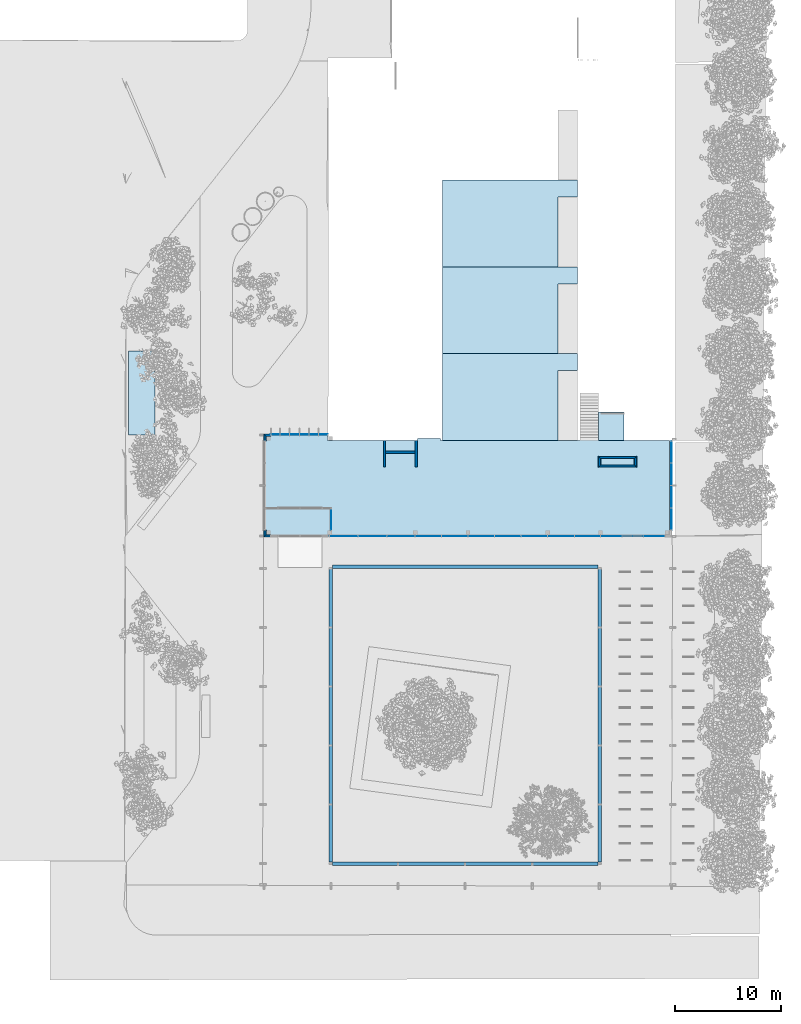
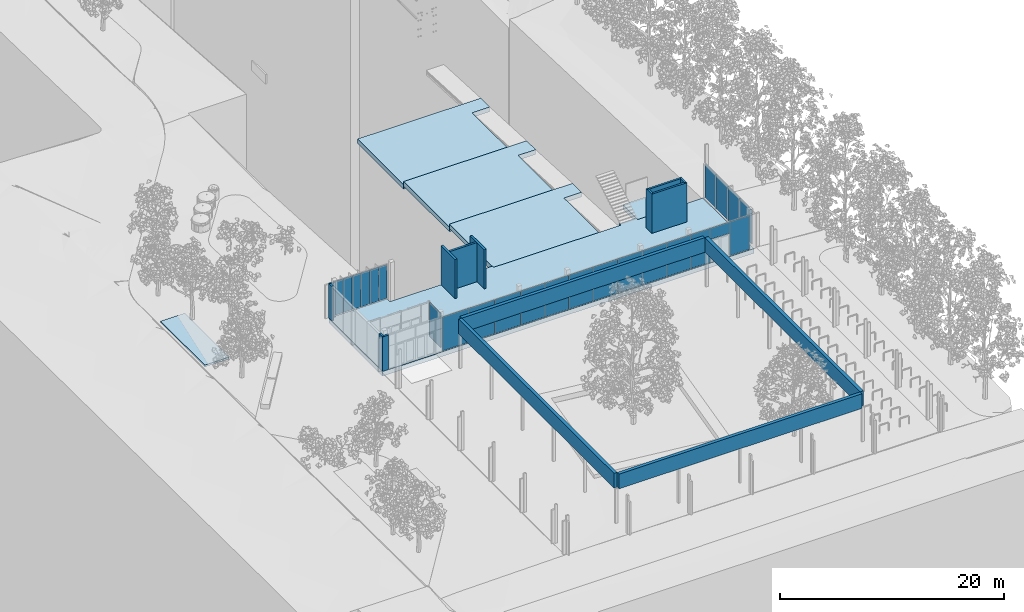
# One storey, part 9 of 69: 24 plates, 15 walls, 6 slabs, 6 elements without a shape of their own.
"""IFC2X3 building model written with IfcOpenShell, lengths in millimetres."""

from ifc_helpers import new_model, entity, si_unit, converted_unit, derived_unit, money_unit, direction, frame, origin_with_axes, place, context, subcontext, project, spatial, polyline, outline, extrude, material, layer, layer_set, layer_usage, type_object, element, aggregate, save


model = new_model("IFC2X3")

# Units and contexts
model_context = context("Model", 3, precision=0.01, world=origin_with_axes(), true_north=direction((0.0, 1.0)))
body_context = subcontext(model_context, "Body", "Model", "MODEL_VIEW")
ifc_project = project(units=[si_unit("LENGTHUNIT", "METRE", prefix="MILLI"), si_unit("AREAUNIT", "SQUARE_METRE"), si_unit("VOLUMEUNIT", "CUBIC_METRE"), converted_unit("PLANEANGLEUNIT", "DEGREE", entity("IfcPlaneAngleMeasure", 0.0174532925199), si_unit("PLANEANGLEUNIT", "RADIAN"), dimensions=[0, 0, 0, 0, 0, 0, 0]), si_unit("SOLIDANGLEUNIT", "STERADIAN"), money_unit("EUR"), converted_unit("TIMEUNIT", "Year", entity("IfcTimeMeasure", 31556926.0), si_unit("TIMEUNIT", "SECOND"), dimensions=[0, 0, 1, 0, 0, 0, 0]), si_unit("MASSUNIT", "GRAM", prefix="KILO"), si_unit("THERMODYNAMICTEMPERATUREUNIT", "DEGREE_CELSIUS"), si_unit("LUMINOUSINTENSITYUNIT", "LUMEN"), si_unit("ENERGYUNIT", "JOULE", prefix="MEGA"), derived_unit("THERMALCONDUCTANCEUNIT", [(si_unit("POWERUNIT", "WATT"), 1), (si_unit("LENGTHUNIT", "METRE"), -1), (si_unit("THERMODYNAMICTEMPERATUREUNIT", "KELVIN"), -1)]), derived_unit("SPECIFICHEATCAPACITYUNIT", [(si_unit("ENERGYUNIT", "JOULE"), 1), (si_unit("MASSUNIT", "GRAM", prefix="KILO"), -1), (si_unit("THERMODYNAMICTEMPERATUREUNIT", "KELVIN"), -1)]), derived_unit("MASSDENSITYUNIT", [(si_unit("MASSUNIT", "GRAM", prefix="KILO"), 1), (si_unit("VOLUMEUNIT", "CUBIC_METRE"), -1)])], contexts=[model_context])

# Site, building, storey
site_placement = place(None, origin_with_axes())
site = spatial("IfcSite", under=ifc_project, at=site_placement, Name="Puškini 31, Narva", CompositionType="ELEMENT")
building_placement = place(site_placement, origin_with_axes())
building = spatial("IfcBuilding", under=site, at=building_placement, Name="Narva Riigigümnaasium", CompositionType="ELEMENT")
storey_placement = place(building_placement, origin_with_axes())
storey = spatial("IfcBuildingStorey", under=building, at=storey_placement, Name="1.korrus 0.00", CompositionType="ELEMENT", Elevation=0.0)

# Curtain wall, plate
curtain_wall_type = type_object("IfcCurtainWallType", Name="Curtain Wall Type", PredefinedType="NOTDEFINED")
curtain_wall_1_placement = place(storey_placement, frame((22285.3673645, 151537.502931, -7.26812883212e-05), z_axis=(0.0, 0.0, 1.0), x_axis=(1.0, 0.0, 0.0)))
curtain_wall_1 = element("IfcCurtainWall", 1, at=curtain_wall_1_placement, inside=storey, type_object=curtain_wall_type, Name="G-KLF-01-2")
ifc_material_1 = material(Name="VKR-05_Klaas")
plate_type_1 = type_object("IfcPlateType", Name="Siseklaasfassaad - Klaas 2014 x 3699 x 10", PredefinedType="CURTAIN_PANEL")
plate_1_placement = place(curtain_wall_1_placement, frame((0.0, 0.0, 1880.00004967), z_axis=(0.0, 0.0, 1.0), x_axis=(0.0, -1.0, 0.0)))
plate_1 = element("IfcPlate", 2, at=plate_1_placement, type_object=plate_type_1, material=ifc_material_1, Name="G-SKLF-02-klaas", ObjectType="CURTAIN_PANEL", context=body_context, shape_type="SweptSolid", body=[
    extrude(outline(polyline([(-1006.92057875, -1849.41770334), (1006.92059259, -1849.41770334), (1006.92059259, 1849.41770334), (-1006.92057875, 1849.41770334), (-1006.92057875, -1849.41770334)])), frame((0.0, -1.0, 0.0), z_axis=(0.0, 1.0, 0.0), x_axis=(1.0, 0.0, 0.0)), (0.0, 0.0, 1.0), 12.0),
])
aggregate(curtain_wall_1, [plate_1])

# Curtain wall, plates
curtain_wall_2_placement = place(storey_placement, frame((54395.000001, 153692.500006, -0.000186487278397), z_axis=(0.0, 0.0, 1.0), x_axis=(1.0, 0.0, 0.0)))
curtain_wall_2 = element("IfcCurtainWall", 3, at=curtain_wall_2_placement, inside=storey, type_object=curtain_wall_type, Name="G-KLF-02-1")
ifc_material_2 = material(Name="Klaas")
plate_type_2 = type_object("IfcPlateType", Name="Main Panel 2070 x 3690 x 62", PredefinedType="CURTAIN_PANEL")
plate_2_placement = place(curtain_wall_2_placement, frame((0.0, -2114.99999757, 1880.00010289), z_axis=(0.0, 0.0, 1.0), x_axis=(0.0, 1.0, 0.0)))
plate_2 = element("IfcPlate", 4, at=plate_2_placement, type_object=plate_type_2, material=ifc_material_2, Name="klaasfassaadi klaas", ObjectType="CURTAIN_PANEL", context=body_context, shape_type="SweptSolid", body=[
    extrude(outline(polyline([(-1022.5000018, -1845.00009978), (1047.49998989, -1845.00009978), (1047.49998989, 1845.00009978), (-1022.5000018, 1845.00009978), (-1022.5000018, -1845.00009978)])), frame((0.0, -31.0, 0.0), z_axis=(0.0, 1.0, 0.0), x_axis=(1.0, 0.0, 0.0)), (0.0, 0.0, 1.0), 62.0),
])
plate_3_placement = place(curtain_wall_2_placement, frame((0.0, 4229.99999514, 1880.00010289), z_axis=(0.0, 0.0, 1.0), x_axis=(0.0, 1.0, 0.0)))
plate_3 = element("IfcPlate", 5, at=plate_3_placement, type_object=plate_type_2, material=ifc_material_2, Name="klaasfassaadi klaas", ObjectType="CURTAIN_PANEL", context=body_context, shape_type="SweptSolid", body=[
    extrude(outline(polyline([(-1047.49999602, -1845.00009978), (1022.49999568, -1845.00009978), (1022.49999568, 1845.00009978), (-1047.49999602, 1845.00009978), (-1047.49999602, -1845.00009978)])), frame((0.0, -31.0, 0.0), z_axis=(0.0, 1.0, 0.0), x_axis=(1.0, 0.0, 0.0)), (0.0, 0.0, 1.0), 62.0),
])

curtain_wall_3_placement = place(storey_placement, frame((17902.9999992, 159574.999987, -0.000108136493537), z_axis=(0.0, 0.0, 1.0), x_axis=(1.0, 0.0, 0.0)))
curtain_wall_3 = element("IfcCurtainWall", 6, at=curtain_wall_3_placement, inside=storey, type_object=curtain_wall_type, Name="G-KLF-03")
plate_type_3 = type_object("IfcPlateType", Name="Main Panel 886 x 3690 x 62", PredefinedType="CURTAIN_PANEL")
plate_4_placement = place(curtain_wall_3_placement, frame((0.0, 0.0, 1880.00003723), z_axis=(0.0, 0.0, 1.0), x_axis=(-1.0, 0.0, 0.0)))
plate_4 = element("IfcPlate", 7, at=plate_4_placement, type_object=plate_type_3, material=ifc_material_2, Name="klaasfassaadi klaas", ObjectType="CURTAIN_PANEL", context=body_context, shape_type="SweptSolid", body=[
    extrude(outline(polyline([(-443.000003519, -1845.00003535), (442.999991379, -1845.00003535), (442.999991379, 1845.00003535), (-443.000003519, 1845.00003535), (-443.000003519, -1845.00003535)])), frame((0.0, -31.0, 0.0), z_axis=(0.0, 1.0, 0.0), x_axis=(1.0, 0.0, 0.0)), (0.0, 0.0, 1.0), 62.0),
])
plate_5_placement = place(curtain_wall_3_placement, frame((905.999999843, 0.0, 1880.00004405), z_axis=(0.0, 0.0, 1.0), x_axis=(-1.0, 0.0, 0.0)))
plate_5 = element("IfcPlate", 8, at=plate_5_placement, type_object=plate_type_3, material=ifc_material_2, Name="klaasfassaadi klaas", ObjectType="CURTAIN_PANEL", context=body_context, shape_type="SweptSolid", body=[
    extrude(outline(polyline([(-443.000003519, -1845.00002853), (442.999991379, -1845.00002853), (442.999991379, 1845.00004217), (-443.000003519, 1845.00004217), (-443.000003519, -1845.00002853)])), frame((0.0, -31.0, 0.0), z_axis=(0.0, 1.0, 0.0), x_axis=(1.0, 0.0, 0.0)), (0.0, 0.0, 1.0), 62.0),
])
plate_6_placement = place(curtain_wall_3_placement, frame((1811.99999969, 0.0, 1880.00005087), z_axis=(0.0, 0.0, 1.0), x_axis=(-1.0, 0.0, 0.0)))
plate_6 = element("IfcPlate", 9, at=plate_6_placement, type_object=plate_type_3, material=ifc_material_2, Name="klaasfassaadi klaas", ObjectType="CURTAIN_PANEL", context=body_context, shape_type="SweptSolid", body=[
    extrude(outline(polyline([(-443.000003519, -1845.00002171), (442.999991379, -1845.00002171), (442.999991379, 1845.00004899), (-443.000003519, 1845.00004899), (-443.000003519, -1845.00002171)])), frame((0.0, -31.0, 0.0), z_axis=(0.0, 1.0, 0.0), x_axis=(1.0, 0.0, 0.0)), (0.0, 0.0, 1.0), 62.0),
])
plate_7_placement = place(curtain_wall_3_placement, frame((2717.99999953, 0.0, 1880.00005087), z_axis=(0.0, 0.0, 1.0), x_axis=(-1.0, 0.0, 0.0)))
plate_7 = element("IfcPlate", 10, at=plate_7_placement, type_object=plate_type_3, material=ifc_material_2, Name="klaasfassaadi klaas", ObjectType="CURTAIN_PANEL", context=body_context, shape_type="SweptSolid", body=[
    extrude(outline(polyline([(-443.000003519, -1845.00002171), (442.999991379, -1845.00002171), (442.999991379, 1845.00004899), (-443.000003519, 1845.00004899), (-443.000003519, -1845.00002171)])), frame((0.0, -31.0, 0.0), z_axis=(0.0, 1.0, 0.0), x_axis=(1.0, 0.0, 0.0)), (0.0, 0.0, 1.0), 62.0),
])
plate_type_4 = type_object("IfcPlateType", Name="Main Panel 861 x 3690 x 62", PredefinedType="CURTAIN_PANEL")
plate_8_placement = place(curtain_wall_3_placement, frame((-905.999999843, 0.0, 1880.00003723), z_axis=(0.0, 0.0, 1.0), x_axis=(-1.0, 0.0, 0.0)))
plate_8 = element("IfcPlate", 11, at=plate_8_placement, type_object=plate_type_4, material=ifc_material_2, Name="klaasfassaadi klaas", ObjectType="CURTAIN_PANEL", context=body_context, shape_type="SweptSolid", body=[
    extrude(outline(polyline([(-443.000003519, -1845.00003535), (417.999998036, -1845.00003535), (417.999998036, 1845.00003535), (-443.000003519, 1845.00003535), (-443.000003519, -1845.00003535)])), frame((0.0, -31.0, 0.0), z_axis=(0.0, 1.0, 0.0), x_axis=(1.0, 0.0, 0.0)), (0.0, 0.0, 1.0), 62.0),
])
plate_9_placement = place(curtain_wall_3_placement, frame((3623.99999937, 0.0, 1880.00005087), z_axis=(0.0, 0.0, 1.0), x_axis=(-1.0, 0.0, 0.0)))
plate_9 = element("IfcPlate", 12, at=plate_9_placement, type_object=plate_type_4, material=ifc_material_2, Name="klaasfassaadi klaas", ObjectType="CURTAIN_PANEL", context=body_context, shape_type="SweptSolid", body=[
    extrude(outline(polyline([(-418.000016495, -1845.00004873), (442.999991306, -1845.00004873), (442.999991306, 1845.00004873), (-418.000016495, 1845.00004873), (-418.000016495, -1845.00004873)])), frame((0.0, -31.0, 0.0), z_axis=(0.0, 1.0, 0.0), x_axis=(1.0, 0.0, 0.0)), (0.0, 0.0, 1.0), 62.0),
])
aggregate(curtain_wall_3, [plate_4, plate_5, plate_8, plate_6, plate_7, plate_9])

# Plate
plate_type_5 = type_object("IfcPlateType", Name="Main Panel 2095 x 3690 x 62", PredefinedType="CURTAIN_PANEL")
plate_10_placement = place(curtain_wall_2_placement, frame((0.0, 0.0, 1880.00010289), z_axis=(0.0, 0.0, 1.0), x_axis=(0.0, 1.0, 0.0)))
plate_10 = element("IfcPlate", 13, at=plate_10_placement, type_object=plate_type_5, material=ifc_material_2, Name="klaasfassaadi klaas", ObjectType="CURTAIN_PANEL", context=body_context, shape_type="SweptSolid", body=[
    extrude(outline(polyline([(-1047.49999602, -1845.00009978), (1047.49998989, -1845.00009978), (1047.49998989, 1845.00009978), (-1047.49999602, 1845.00009978), (-1047.49999602, -1845.00009978)])), frame((0.0, -31.0, 0.0), z_axis=(0.0, 1.0, 0.0), x_axis=(1.0, 0.0, 0.0)), (0.0, 0.0, 1.0), 62.0),
])

plate_11_placement = place(curtain_wall_2_placement, frame((0.0, 2114.99999757, 1880.00010289), z_axis=(0.0, 0.0, 1.0), x_axis=(0.0, 1.0, 0.0)))
plate_11 = element("IfcPlate", 14, at=plate_11_placement, type_object=plate_type_5, material=ifc_material_2, Name="klaasfassaadi klaas", ObjectType="CURTAIN_PANEL", context=body_context, shape_type="SweptSolid", body=[
    extrude(outline(polyline([(-1047.49999602, -1845.00009978), (1047.49998989, -1845.00009978), (1047.49998989, 1845.00009978), (-1047.49999602, 1845.00009978), (-1047.49999602, -1845.00009978)])), frame((0.0, -31.0, 0.0), z_axis=(0.0, 1.0, 0.0), x_axis=(1.0, 0.0, 0.0)), (0.0, 0.0, 1.0), 62.0),
])

aggregate(curtain_wall_2, [plate_10, plate_11, plate_2, plate_3])

# Curtain wall, plates
curtain_wall_4_placement = place(storey_placement, frame((46469.7142802, 149970.00001, 0.0), z_axis=(0.0, 0.0, 1.0), x_axis=(1.0, 0.0, 0.0)))
curtain_wall_4 = element("IfcCurtainWall", 15, at=curtain_wall_4_placement, inside=storey, type_object=curtain_wall_type, Name="G-KLF-01")
ifc_material_3 = material(Name="Klaaspakett")
plate_type_6 = type_object("IfcPlateType", Name="Distinct Panel 2462 x 3690 x 20", PredefinedType="CURTAIN_PANEL")
plate_12_placement = place(curtain_wall_4_placement, frame((0.0, 0.0, 1880.0), z_axis=(0.0, 0.0, 1.0), x_axis=(1.0, 0.0, 0.0)))
plate_12 = element("IfcPlate", 16, at=plate_12_placement, type_object=plate_type_6, material=ifc_material_3, Name="Klaasfassaadi klaas", ObjectType="CURTAIN_PANEL", context=body_context, shape_type="SweptSolid", body=[
    extrude(outline(polyline([(-1243.28569605, -1844.99999881), (1218.28571276, -1844.99999881), (1218.28571276, 1844.99999881), (-1243.28569605, 1844.99999881), (-1243.28569605, -1844.99999881)])), frame((0.0, -9.99999999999, 0.0), z_axis=(0.0, 1.0, 0.0), x_axis=(1.0, 0.0, 0.0)), (0.0, 0.0, 1.0), 20.0),
])
plate_13_placement = place(curtain_wall_4_placement, frame((-15039.4285675, 0.0, 1880.0), z_axis=(0.0, 0.0, 1.0), x_axis=(1.0, 0.0, 0.0)))
plate_13 = element("IfcPlate", 17, at=plate_13_placement, type_object=plate_type_6, material=ifc_material_3, Name="Klaasfassaadi klaas", ObjectType="CURTAIN_PANEL", context=body_context, shape_type="SweptSolid", body=[
    extrude(outline(polyline([(-1218.28570321, -1844.99999881), (1243.28570561, -1844.99999881), (1243.28570561, 1844.99999881), (-1218.28570321, 1844.99999881), (-1218.28570321, -1844.99999881)])), frame((0.0, -9.99999999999, 0.0), z_axis=(0.0, 1.0, 0.0), x_axis=(1.0, 0.0, 0.0)), (0.0, 0.0, 1.0), 20.0),
])
plate_type_7 = type_object("IfcPlateType", Name="Distinct Panel 2487 x 3690 x 20", PredefinedType="CURTAIN_PANEL")
plate_14_placement = place(curtain_wall_4_placement, frame((-2506.57142791, 0.0, 1880.0), z_axis=(0.0, 0.0, 1.0), x_axis=(1.0, 0.0, 0.0)))
plate_14 = element("IfcPlate", 18, at=plate_14_placement, type_object=plate_type_7, material=ifc_material_3, Name="Klaasfassaadi klaas", ObjectType="CURTAIN_PANEL", context=body_context, shape_type="SweptSolid", body=[
    extrude(outline(polyline([(-1243.28569605, -1844.99999881), (1243.28570561, -1844.99999881), (1243.28570561, 1844.99999881), (-1243.28569605, 1844.99999881), (-1243.28569605, -1844.99999881)])), frame((0.0, -9.99999999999, 0.0), z_axis=(0.0, 1.0, 0.0), x_axis=(1.0, 0.0, 0.0)), (0.0, 0.0, 1.0), 20.0),
])
plate_15_placement = place(curtain_wall_4_placement, frame((-5013.14285582, 0.0, 1880.0), z_axis=(0.0, 0.0, 1.0), x_axis=(1.0, 0.0, 0.0)))
plate_15 = element("IfcPlate", 19, at=plate_15_placement, type_object=plate_type_7, material=ifc_material_3, Name="Klaasfassaadi klaas", ObjectType="CURTAIN_PANEL", context=body_context, shape_type="SweptSolid", body=[
    extrude(outline(polyline([(-1243.28569605, -1844.99999881), (1243.28570561, -1844.99999881), (1243.28570561, 1844.99999881), (-1243.28569605, 1844.99999881), (-1243.28569605, -1844.99999881)])), frame((0.0, -9.99999999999, 0.0), z_axis=(0.0, 1.0, 0.0), x_axis=(1.0, 0.0, 0.0)), (0.0, 0.0, 1.0), 20.0),
])
plate_16_placement = place(curtain_wall_4_placement, frame((-7519.71428373, 0.0, 1880.0), z_axis=(0.0, 0.0, 1.0), x_axis=(1.0, 0.0, 0.0)))
plate_16 = element("IfcPlate", 20, at=plate_16_placement, type_object=plate_type_7, material=ifc_material_3, Name="Klaasfassaadi klaas", ObjectType="CURTAIN_PANEL", context=body_context, shape_type="SweptSolid", body=[
    extrude(outline(polyline([(-1243.28569605, -1844.99999881), (1243.28570561, -1844.99999881), (1243.28570561, 1844.99999881), (-1243.28569605, 1844.99999881), (-1243.28569605, -1844.99999881)])), frame((0.0, -9.99999999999, 0.0), z_axis=(0.0, 1.0, 0.0), x_axis=(1.0, 0.0, 0.0)), (0.0, 0.0, 1.0), 20.0),
])
plate_17_placement = place(curtain_wall_4_placement, frame((-10026.2857116, 0.0, 1880.0), z_axis=(0.0, 0.0, 1.0), x_axis=(1.0, 0.0, 0.0)))
plate_17 = element("IfcPlate", 21, at=plate_17_placement, type_object=plate_type_7, material=ifc_material_3, Name="Klaasfassaadi klaas", ObjectType="CURTAIN_PANEL", context=body_context, shape_type="SweptSolid", body=[
    extrude(outline(polyline([(-1243.28569605, -1844.99999881), (1243.28570561, -1844.99999881), (1243.28570561, 1844.99999881), (-1243.28569605, 1844.99999881), (-1243.28569605, -1844.99999881)])), frame((0.0, -9.99999999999, 0.0), z_axis=(0.0, 1.0, 0.0), x_axis=(1.0, 0.0, 0.0)), (0.0, 0.0, 1.0), 20.0),
])
plate_18_placement = place(curtain_wall_4_placement, frame((-12532.8571396, 0.0, 1880.0), z_axis=(0.0, 0.0, 1.0), x_axis=(1.0, 0.0, 0.0)))
plate_18 = element("IfcPlate", 22, at=plate_18_placement, type_object=plate_type_7, material=ifc_material_3, Name="Klaasfassaadi klaas", ObjectType="CURTAIN_PANEL", context=body_context, shape_type="SweptSolid", body=[
    extrude(outline(polyline([(-1243.28569605, -1844.99999881), (1243.28570561, -1844.99999881), (1243.28570561, 1844.99999881), (-1243.28569605, 1844.99999881), (-1243.28569605, -1844.99999881)])), frame((0.0, -9.99999999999, 0.0), z_axis=(0.0, 1.0, 0.0), x_axis=(1.0, 0.0, 0.0)), (0.0, 0.0, 1.0), 20.0),
])
aggregate(curtain_wall_4, [plate_12, plate_14, plate_15, plate_16, plate_17, plate_18, plate_13])

curtain_wall_5_placement = place(storey_placement, frame((28873.394571, 149970.00001, 0.0), z_axis=(0.0, 0.0, 1.0), x_axis=(1.0, 0.0, 0.0)))
curtain_wall_5 = element("IfcCurtainWall", 23, at=curtain_wall_5_placement, inside=storey, type_object=curtain_wall_type, Name="G-KLF-01b")
plate_type_8 = type_object("IfcPlateType", Name="Distinct Panel 2662 x 3690 x 20", PredefinedType="CURTAIN_PANEL")
plate_19_placement = place(curtain_wall_5_placement, frame((0.0, 0.0, 1880.0), z_axis=(0.0, 0.0, 1.0), x_axis=(1.0, 0.0, 0.0)))
plate_19 = element("IfcPlate", 24, at=plate_19_placement, type_object=plate_type_8, material=ifc_material_3, Name="Klaasfassaadi klaas", ObjectType="CURTAIN_PANEL", context=body_context, shape_type="SweptSolid", body=[
    extrude(outline(polyline([(-1343.6054334, -1844.99999881), (1318.60542657, -1844.99999881), (1318.60542657, 1844.99999881), (-1343.6054334, 1844.99999881), (-1343.6054334, -1844.99999881)])), frame((0.0, -9.99999999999, 0.0), z_axis=(0.0, 1.0, 0.0), x_axis=(1.0, 0.0, 0.0)), (0.0, 0.0, 1.0), 20.0),
])
plate_20_placement = place(curtain_wall_5_placement, frame((-5414.42171107, 0.0, 1880.0), z_axis=(0.0, 0.0, 1.0), x_axis=(1.0, 0.0, 0.0)))
plate_20 = element("IfcPlate", 25, at=plate_20_placement, type_object=plate_type_8, material=ifc_material_3, Name="Klaasfassaadi klaas", ObjectType="CURTAIN_PANEL", context=body_context, shape_type="SweptSolid", body=[
    extrude(outline(polyline([(-1318.60544055, -1844.99999881), (1343.60541942, -1844.99999881), (1343.60541942, 1844.99999881), (-1318.60544055, 1844.99999881), (-1318.60544055, -1844.99999881)])), frame((0.0, -9.99999999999, 0.0), z_axis=(0.0, 1.0, 0.0), x_axis=(1.0, 0.0, 0.0)), (0.0, 0.0, 1.0), 20.0),
])
plate_type_9 = type_object("IfcPlateType", Name="Distinct Panel 2687 x 3690 x 20", PredefinedType="CURTAIN_PANEL")
plate_21_placement = place(curtain_wall_5_placement, frame((-2707.21085553, 0.0, 1880.0), z_axis=(0.0, 0.0, 1.0), x_axis=(1.0, 0.0, 0.0)))
plate_21 = element("IfcPlate", 26, at=plate_21_placement, type_object=plate_type_9, material=ifc_material_3, Name="Klaasfassaadi klaas", ObjectType="CURTAIN_PANEL", context=body_context, shape_type="SweptSolid", body=[
    extrude(outline(polyline([(-1343.6054334, -1844.99999881), (1343.60541942, -1844.99999881), (1343.60541942, 1844.99999881), (-1343.6054334, 1844.99999881), (-1343.6054334, -1844.99999881)])), frame((0.0, -9.99999999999, 0.0), z_axis=(0.0, 1.0, 0.0), x_axis=(1.0, 0.0, 0.0)), (0.0, 0.0, 1.0), 20.0),
])
aggregate(curtain_wall_5, [plate_19, plate_21, plate_20])

curtain_wall_6_placement = place(storey_placement, frame((52576.1999988, 149970.00001, 0.0), z_axis=(0.0, 0.0, 1.0), x_axis=(1.0, 0.0, 0.0)))
curtain_wall_6 = element("IfcCurtainWall", 27, at=curtain_wall_6_placement, inside=storey, type_object=curtain_wall_type, Name="G-KLF-01c")
plate_type_10 = type_object("IfcPlateType", Name="Distinct Panel 1998 x 3690 x 20", PredefinedType="CURTAIN_PANEL")
plate_22_placement = place(curtain_wall_6_placement, frame((0.0, 0.0, 2003.99999514), z_axis=(0.0, 0.0, 1.0), x_axis=(1.0, 0.0, 0.0)))
plate_22 = element("IfcPlate", 28, at=plate_22_placement, type_object=plate_type_10, material=ifc_material_3, Name="Klaasfassaadi klaas", ObjectType="CURTAIN_PANEL", context=body_context, shape_type="SweptSolid", body=[
    extrude(outline(polyline([(-807.199997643, -1721.00000367), (1190.79999997, -1721.00000367), (1190.79999997, 1968.99999395), (-807.199997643, 1968.99999395), (-807.199997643, -1721.00000367)])), frame((0.0, -9.99999999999, 0.0), z_axis=(0.0, 1.0, 0.0), x_axis=(1.0, 0.0, 0.0)), (0.0, 0.0, 1.0), 20.0),
])
plate_type_11 = type_object("IfcPlateType", Name="Distinct Panel 2023 x 1215 x 20", PredefinedType="CURTAIN_PANEL")
plate_23_placement = place(curtain_wall_6_placement, frame((-1838.70000175, 0.0, 3129.99998785), z_axis=(0.0, 0.0, 1.0), x_axis=(1.0, 0.0, 0.0)))
plate_23 = element("IfcPlate", 29, at=plate_23_placement, type_object=plate_type_11, material=ifc_material_3, Name="Klaasfassaadi klaas", ObjectType="CURTAIN_PANEL", context=body_context, shape_type="SweptSolid", body=[
    extrude(outline(polyline([(-1011.49999014, -595.000005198), (1011.49999014, -595.000005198), (1011.49999014, 620.000001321), (-1011.49999014, 620.000001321), (-1011.49999014, -595.000005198)])), frame((0.0, -9.99999999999, 0.0), z_axis=(0.0, 1.0, 0.0), x_axis=(1.0, 0.0, 0.0)), (0.0, 0.0, 1.0), 20.0),
])
plate_type_12 = type_object("IfcPlateType", Name="Distinct Panel 1998 x 1225 x 20", PredefinedType="CURTAIN_PANEL")
plate_24_placement = place(curtain_wall_6_placement, frame((-3677.40000349, 0.0, 2003.99999514), z_axis=(0.0, 0.0, 1.0), x_axis=(1.0, 0.0, 0.0)))
plate_24 = element("IfcPlate", 30, at=plate_24_placement, type_object=plate_type_12, material=ifc_material_3, Name="Klaasfassaadi klaas", ObjectType="CURTAIN_PANEL", context=body_context, shape_type="SweptSolid", body=[
    extrude(outline(polyline([(-1190.80000518, -1721.00000367), (807.199992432, -1721.00000367), (807.199992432, 1968.99999395), (-1190.80000518, 1968.99999395), (-1190.80000518, -1721.00000367)])), frame((0.0, -9.99999999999, 0.0), z_axis=(0.0, 1.0, 0.0), x_axis=(1.0, 0.0, 0.0)), (0.0, 0.0, 1.0), 20.0),
])
aggregate(curtain_wall_6, [plate_22, plate_23, plate_24])

# Slabs
ifc_material_4 = material(Name="Salto-põrandakate")
ifc_layer_1 = layer(ifc_material_4, 10.0, ventilated="UNKNOWN")
ifc_material_5 = material(Name="KON-04_Betoon - Konstuktsioon")
ifc_layer_2 = layer(ifc_material_5, 100.0, ventilated="UNKNOWN")
ifc_material_6 = material(Name="SOJ-04_Soojustus - Mineraal Kõva")
ifc_layer_3 = layer(ifc_material_6, 100.0, ventilated="UNKNOWN")
ifc_material_7 = material(Name="VKK-03_Kruus")
ifc_layer_4 = layer(ifc_material_7, 200.0, ventilated="UNKNOWN")
ifc_layer_set_1 = layer_set([ifc_layer_1, ifc_layer_2, ifc_layer_3, ifc_layer_3, ifc_layer_4], Name="G-PP-01")
ifc_layer_usage_1 = layer_usage(ifc_layer_set_1, "AXIS3", "NEGATIVE", 510.0)
slab_type_1 = type_object("IfcSlabType", Name="G-PP-01 510", PredefinedType="NOTDEFINED")
slab_1_placement = place(storey_placement, frame((47499.9999944, 159000.0, 0.0), z_axis=(0.0, 0.0, 1.0), x_axis=(1.0, 0.0, 0.0)))
element("IfcSlab", 31, at=slab_1_placement, inside=storey, type_object=slab_type_1, material=ifc_layer_usage_1, Name="Põrand pinnasel", PredefinedType="NOTDEFINED", context=body_context, shape_type="SweptSolid", body=[
    extrude(outline(polyline([(0.0, 0.0), (2400.16820881, 8.73114913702e-08), (2400.16820881, 2699.99999992), (5.92299187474e-06, 2699.99999992), (0.0, 0.0)])), frame((0.0, 0.0, -510.0), z_axis=(0.0, 0.0, 1.0), x_axis=(1.0, 0.0, 0.0)), (0.0, 0.0, 1.0), 510.0),
])
slab_2_placement = place(storey_placement, frame((32799.999999, 167199.999936, -660.0), z_axis=(0.0, 0.0, 1.0), x_axis=(1.0, 0.0, 0.0)))
element("IfcSlab", 32, at=slab_2_placement, inside=storey, type_object=slab_type_1, material=ifc_layer_usage_1, Name="Suured astmed", PredefinedType="NOTDEFINED", context=body_context, shape_type="SweptSolid", body=[
    extrude(outline(polyline([(0.0, 0.0), (10889.9999995, 0.0), (10889.9999995, 6600.00002752), (12699.9999996, 6600.00002752), (12699.9999996, 8200.00001089), (0.0, 8200.00001089), (0.0, 0.0)])), frame((0.0, 0.0, -510.0), z_axis=(0.0, 0.0, 1.0), x_axis=(1.0, 0.0, 0.0)), (0.0, 0.0, 1.0), 510.0),
])
slab_3_placement = place(storey_placement, frame((32799.9999991, 175400.0, -990.0), z_axis=(0.0, 0.0, 1.0), x_axis=(1.0, 0.0, 0.0)))
element("IfcSlab", 33, at=slab_3_placement, inside=storey, type_object=slab_type_1, material=ifc_layer_usage_1, Name="Suured astmed", PredefinedType="NOTDEFINED", context=body_context, shape_type="SweptSolid", body=[
    extrude(outline(polyline([(0.0, 0.0), (10889.9999996, 0.0), (10889.9999996, 6600.00002184), (12699.9999995, 6600.00002184), (12699.9999995, 8200.00000384), (0.0, 8200.00000384), (0.0, 0.0)])), frame((0.0, 0.0, -510.0), z_axis=(0.0, 0.0, 1.0), x_axis=(1.0, 0.0, 0.0)), (0.0, 0.0, 1.0), 510.0),
])
slab_4_placement = place(storey_placement, frame((32799.9999988, 158999.999997, -330.0), z_axis=(0.0, 0.0, 1.0), x_axis=(1.0, 0.0, 0.0)))
element("IfcSlab", 34, at=slab_4_placement, inside=storey, type_object=slab_type_1, material=ifc_layer_usage_1, Name="Suured astmed", PredefinedType="NOTDEFINED", context=body_context, shape_type="SweptSolid", body=[
    extrude(outline(polyline([(0.0, 0.0), (10889.9999996, 0.0), (10889.9999996, 6600.00002224), (12700.0000107, 6600.00002224), (12700.0000107, 8200.00000433), (0.0, 8200.00000433), (0.0, 0.0)])), frame((0.0, 0.0, -510.0), z_axis=(0.0, 0.0, 1.0), x_axis=(1.0, 0.0, 0.0)), (0.0, 0.0, 1.0), 510.0),
])
ifc_layer_5 = layer(ifc_material_5, 110.0, ventilated="UNKNOWN")
ifc_layer_set_2 = layer_set([ifc_layer_5, ifc_layer_3, ifc_layer_3, ifc_layer_4], Name="G-PP-01*")
ifc_layer_usage_2 = layer_usage(ifc_layer_set_2, "AXIS3", "NEGATIVE", 510.0)
slab_type_2 = type_object("IfcSlabType", Name="G-PP-01* 510", PredefinedType="NOTDEFINED")
slab_5_placement = place(storey_placement, frame((15923.9999994, 149900.00001, 0.0), z_axis=(0.0, 0.0, 1.0), x_axis=(1.0, 0.0, 0.0)))
element("IfcSlab", 35, at=slab_5_placement, inside=storey, type_object=slab_type_2, material=ifc_layer_usage_2, Name="Põrand pinnasel", PredefinedType="NOTDEFINED", context=body_context, shape_type="SweptSolid", body=[
    extrude(outline(polyline([(0.0, 0.0), (38276.0000016, 0.0), (38276.0000016, 9099.99999027), (31576.000001, 9099.78845918), (31575.9735319, 9400.12368948), (29809.9995786, 9399.96805105), (29810.0044223, 9100.00053957), (16675.9999962, 9099.78845918), (16675.9999994, 9299.99999024), (14475.9999994, 9299.99998215), (14475.9999966, 9099.78845918), (6015.99999906, 9099.99999205), (6015.99999906, 9599.999991), (0.0, 9599.999991), (0.0, 0.0)])), frame((0.0, 0.0, -510.0), z_axis=(0.0, 0.0, 1.0), x_axis=(1.0, 0.0, 0.0)), (0.0, 0.0, 1.0), 510.0),
])
ifc_layer_6 = layer(ifc_material_5, 200.0, ventilated="UNKNOWN")
ifc_layer_set_3 = layer_set([ifc_layer_6], Name="KON-04_Betoon - Konstuktsioon 200")
ifc_layer_usage_3 = layer_usage(ifc_layer_set_3, "AXIS3", "NEGATIVE", 200.0)
slab_type_3 = type_object("IfcSlabType", Name="KON-04_Betoon - Konstuktsioon 200", PredefinedType="NOTDEFINED")
slab_6_placement = place(storey_placement, frame((3151.44900489, 159535.843053, -680.0), z_axis=(0.0, 0.0, 1.0), x_axis=(1.0, 0.0, 0.0)))
element("IfcSlab", 36, at=slab_6_placement, inside=storey, type_object=slab_type_3, material=ifc_layer_usage_3, Name="Suured astmed", PredefinedType="NOTDEFINED", context=body_context, shape_type="SweptSolid", body=[
    extrude(outline(polyline([(0.0, 0.0), (2500.0, 0.0), (2500.0, 7900.0), (0.0, 7900.0), (0.0, 0.0)])), frame((0.0, 0.0, -200.0), z_axis=(0.0, 0.0, 1.0), x_axis=(1.0, 0.0, 0.0)), (0.0, 0.0, 1.0), 200.0),
])

# Walls
ifc_material_8 = material(Name="siseviimistlus-seinad")
ifc_layer_7 = layer(ifc_material_8, 10.0, ventilated="UNKNOWN")
ifc_material_9 = material(Name="õõnes betoonplokk")
ifc_layer_8 = layer(ifc_material_9, 190.0, ventilated="UNKNOWN")
ifc_layer_set_4 = layer_set([ifc_layer_7, ifc_layer_8, ifc_layer_7], Name="G-SS-02")
ifc_layer_usage_4 = layer_usage(ifc_layer_set_4, "AXIS2", "NEGATIVE", 10.0)
wall_type_1 = type_object("IfcWallType", Name="G-SS-02 210", PredefinedType="NOTDEFINED")
wall_1_placement = place(storey_placement, frame((51099.9999988, 156500.000003, 0.0), z_axis=(0.0, 0.0, 1.0), x_axis=(-1.0, 0.0, 0.0)))
element("IfcWallStandardCase", 37, at=wall_1_placement, inside=storey, type_object=wall_type_1, material=ifc_layer_usage_4, Name="Sisesein", context=body_context, shape_type="SweptSolid", body=[
    extrude(outline(polyline([(200.0, -200.0), (3400.00000439, -200.0), (3610.00000439, 10.0), (-10.0, 10.0), (200.0, -200.0)])), origin_with_axes(), (0.0, 0.0, 1.0), 4270.0),
])
wall_2_placement = place(storey_placement, frame((51099.9999988, 157500.000003, 0.0), z_axis=(0.0, 0.0, 1.0), x_axis=(0.0, -1.0, 0.0)))
element("IfcWallStandardCase", 38, at=wall_2_placement, inside=storey, type_object=wall_type_1, material=ifc_layer_usage_4, Name="Sisesein", context=body_context, shape_type="SweptSolid", body=[
    extrude(outline(polyline([(200.0, -200.0), (800.000000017, -200.0), (1010.00000002, 10.0), (-10.0, 10.0), (200.0, -200.0)])), origin_with_axes(), (0.0, 0.0, 1.0), 4270.0),
])
wall_3_placement = place(storey_placement, frame((47499.9999944, 157500.000003, 0.0), z_axis=(0.0, 0.0, 1.0), x_axis=(1.0, 0.0, 0.0)))
element("IfcWallStandardCase", 39, at=wall_3_placement, inside=storey, type_object=wall_type_1, material=ifc_layer_usage_4, Name="Sisesein", context=body_context, shape_type="SweptSolid", body=[
    extrude(outline(polyline([(200.0, -200.0), (3400.00000439, -200.0), (3610.00000439, 10.0), (-10.0, 10.0), (200.0, -200.0)])), origin_with_axes(), (0.0, 0.0, 1.0), 4270.0),
])
wall_4_placement = place(storey_placement, frame((30399.9999987, 157800.0, 0.0), z_axis=(0.0, 0.0, 1.0), x_axis=(-1.0, 0.0, 0.0)))
element("IfcWallStandardCase", 40, at=wall_4_placement, inside=storey, type_object=wall_type_1, material=ifc_layer_usage_4, Name="Sisesein", context=body_context, shape_type="SweptSolid", body=[
    extrude(outline(polyline([(199.999999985, -200.0), (3000.00000001, -200.0), (3000.00000001, 10.0), (199.999999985, 10.0), (199.999999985, -200.0)])), origin_with_axes(), (0.0, 0.0, 1.0), 4270.0),
])
wall_5_placement = place(storey_placement, frame((47499.9999944, 156500.000003, 0.0), z_axis=(0.0, 0.0, 1.0), x_axis=(0.0, 1.0, 0.0)))
element("IfcWallStandardCase", 41, at=wall_5_placement, inside=storey, type_object=wall_type_1, material=ifc_layer_usage_4, Name="Sisesein", context=body_context, shape_type="SweptSolid", body=[
    extrude(outline(polyline([(200.0, -200.0), (800.000000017, -200.0), (1010.00000002, 10.0), (-10.0, 10.0), (200.0, -200.0)])), origin_with_axes(), (0.0, 0.0, 1.0), 4270.0),
])
wall_6_placement = place(storey_placement, frame((27199.9999987, 156490.000003, 0.0), z_axis=(0.0, 0.0, 1.0), x_axis=(0.0, 1.0, 0.0)))
element("IfcWallStandardCase", 42, at=wall_6_placement, inside=storey, type_object=wall_type_1, material=ifc_layer_usage_4, Name="Sisesein", context=body_context, shape_type="SweptSolid", body=[
    extrude(outline(polyline([(0.0, -200.0), (2509.99999755, -200.0), (2509.99999755, 10.0), (0.0, 10.0), (0.0, -200.0)])), origin_with_axes(), (0.0, 0.0, 1.0), 4270.00000012),
])
wall_7_placement = place(storey_placement, frame((30399.9999988, 159000.0, 0.0), z_axis=(0.0, 0.0, 1.0), x_axis=(0.0, -1.0, 0.0)))
element("IfcWallStandardCase", 43, at=wall_7_placement, inside=storey, type_object=wall_type_1, material=ifc_layer_usage_4, Name="Sisesein", context=body_context, shape_type="SweptSolid", body=[
    extrude(outline(polyline([(0.0, -200.0), (2509.99999739, -200.0), (2509.99999739, 10.0), (0.0, 10.0), (0.0, -200.0)])), origin_with_axes(), (0.0, 0.0, 1.0), 4270.0),
])
ifc_material_10 = material(Name="Karkass")
ifc_layer_9 = layer(ifc_material_10, 200.0, ventilated="UNKNOWN")
ifc_layer_set_5 = layer_set([ifc_layer_9], Name="Karkass 200")
ifc_layer_usage_5 = layer_usage(ifc_layer_set_5, "AXIS2", "NEGATIVE", 0.0)
wall_type_2 = type_object("IfcWallType", Name="Karkass 200", PredefinedType="NOTDEFINED")
wall_8_placement = place(storey_placement, frame((15923.9999994, 159599.999992, 0.0), z_axis=(0.0, 0.0, 1.0), x_axis=(1.0, 0.0, 0.0)))
element("IfcWallStandardCase", 44, at=wall_8_placement, inside=storey, type_object=wall_type_2, material=ifc_layer_usage_5, Name="Välissein", context=body_context, shape_type="SweptSolid", body=[
    extrude(outline(polyline([(200.0, -200.0), (620.0, -200.0), (620.0, 0.0), (0.0, 0.0), (200.0, -200.0)])), origin_with_axes(), (0.0, 0.0, 1.0), 3760.0),
])
wall_9_placement = place(storey_placement, frame((15923.9999994, 158980.00001, 0.0), z_axis=(0.0, 0.0, 1.0), x_axis=(0.0, 1.0, 0.0)))
element("IfcWallStandardCase", 45, at=wall_9_placement, inside=storey, type_object=wall_type_2, material=ifc_layer_usage_5, Name="Välissein", context=body_context, shape_type="SweptSolid", body=[
    extrude(outline(polyline([(0.0, -200.0), (419.999982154, -200.0), (619.999982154, 0.0), (0.0, 0.0), (0.0, -200.0)])), origin_with_axes(), (0.0, 0.0, 1.0), 3760.0),
])
wall_10_placement = place(storey_placement, frame((15921.9999994, 149900.00001, 0.0), z_axis=(0.0, 0.0, 1.0), x_axis=(0.0, 1.0, 0.0)))
element("IfcWallStandardCase", 46, at=wall_10_placement, inside=storey, type_object=wall_type_2, material=ifc_layer_usage_5, Name="Välissein", context=body_context, shape_type="SweptSolid", body=[
    extrude(outline(polyline([(200.0, -200.0), (620.0, -200.0), (620.0, 0.0), (0.0, 0.0), (200.0, -200.0)])), origin_with_axes(), (0.0, 0.0, 1.0), 3760.0),
])
wall_11_placement = place(storey_placement, frame((16541.9999815, 149900.00001, 0.0), z_axis=(0.0, 0.0, 1.0), x_axis=(-1.0, 0.0, 0.0)))
element("IfcWallStandardCase", 47, at=wall_11_placement, inside=storey, type_object=wall_type_2, material=ifc_layer_usage_5, Name="Välissein", context=body_context, shape_type="SweptSolid", body=[
    extrude(outline(polyline([(0.0, -200.0), (419.999982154, -200.0), (619.999982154, 0.0), (0.0, 0.0), (0.0, -200.0)])), origin_with_axes(), (0.0, 0.0, 1.0), 3760.0),
])
ifc_material_11 = material(Name="fassaadiplaat")
ifc_layer_10 = layer(ifc_material_11, 8.0, ventilated="UNKNOWN")
ifc_material_12 = material(Name="VKR-06_Õhkvahe")
ifc_layer_11 = layer(ifc_material_12, 300.0, ventilated="UNKNOWN")
ifc_material_13 = material(Name="SKR-05_Vineer")
ifc_layer_12 = layer(ifc_material_13, 21.0, ventilated="UNKNOWN")
ifc_material_14 = material(Name="Membraan - Veekindel")
ifc_layer_13 = layer(ifc_material_14, 5.0, ventilated="UNKNOWN")
ifc_layer_set_6 = layer_set([ifc_layer_10, ifc_layer_11, ifc_layer_12, ifc_layer_13], Name="G-VS-01-P6")
ifc_layer_usage_6 = layer_usage(ifc_layer_set_6, "AXIS2", "POSITIVE", 0.0)
wall_type_3 = type_object("IfcWallType", Name="G-VS-01-P6 334", PredefinedType="NOTDEFINED")
wall_12_placement = place(storey_placement, frame((22388.3673643, 119208.000628, 3760.0), z_axis=(0.0, 0.0, 1.0), x_axis=(0.0, 1.0, 0.0)))
element("IfcWallStandardCase", 48, at=wall_12_placement, inside=storey, type_object=wall_type_3, material=ifc_layer_usage_6, Name="Sisesein", context=body_context, shape_type="SweptSolid", body=[
    extrude(outline(polyline([(0.0, 0.0), (27733.9993676, 0.0), (27733.9993676, 334.0), (0.0, 334.0), (0.0, 0.0)])), origin_with_axes(), (0.0, 0.0, 1.0), 1600.0),
])
for number, where, z_axis, x_axis in (
    (49, (22388.3673643, 146941.999996, 3760.0), (0.0, 0.0, 1.0), (1.0, 0.0, 0.0)),
    (50, (47442.0, 119208.000628, 3760.0), (0.0, 0.0, 1.0), (-1.0, 0.0, 0.0)),
):
    element("IfcWallStandardCase", number, at=place(storey_placement, frame(where, z_axis=z_axis, x_axis=x_axis)), inside=storey, type_object=wall_type_3, material=ifc_layer_usage_6, Name="Sisesein", context=body_context, shape_type="SweptSolid", body=[
        extrude(outline(polyline([(0.0, 0.0), (25053.6326357, 0.0), (25053.6326357, 334.0), (0.0, 334.0), (0.0, 0.0)])), origin_with_axes(), (0.0, 0.0, 1.0), 1600.0),
    ])
ifc_layer_usage_7 = layer_usage(ifc_layer_set_6, "AXIS2", "NEGATIVE", 0.0)
wall_13_placement = place(storey_placement, frame((47442.0, 119208.000628, 3760.0), z_axis=(0.0, 0.0, 1.0), x_axis=(0.0, 1.0, 0.0)))
element("IfcWallStandardCase", 51, at=wall_13_placement, inside=storey, type_object=wall_type_3, material=ifc_layer_usage_7, Name="Sisesein", context=body_context, shape_type="SweptSolid", body=[
    extrude(outline(polyline([(0.0, -334.0), (27733.9993676, -334.0), (27733.9993676, 0.0), (0.0, 0.0), (0.0, -334.0)])), origin_with_axes(), (0.0, 0.0, 1.0), 1600.0),
])

save(model, "model.ifc")
